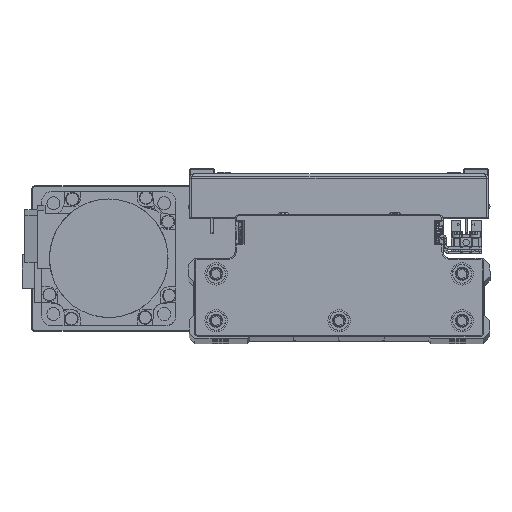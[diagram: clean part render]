
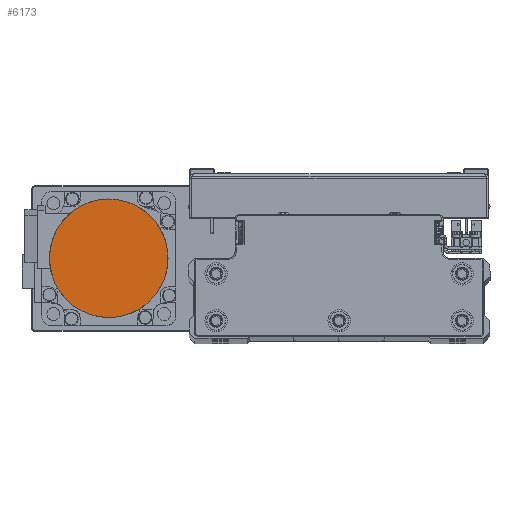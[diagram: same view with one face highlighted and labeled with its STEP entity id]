
A CAD part, top view. The second image highlights one B-rep face of the part: STEP entity #6173.
In plain terms, the highlighted planar face has unit normal (0, 0, 1) as drawn and (0, 0, -1) by its records, which use the part's own axes.
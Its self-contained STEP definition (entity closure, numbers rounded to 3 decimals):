
#1529 = CARTESIAN_POINT ( 'NONE',  ( -19.965, -17.512, -109.7 ) ) ;
#1752 = CARTESIAN_POINT ( 'NONE',  ( 11.744, -23.819, -109.7 ) ) ;
#2463 = CARTESIAN_POINT ( 'NONE',  ( 25.652, 6.871, -109.7 ) ) ;
#2694 = CARTESIAN_POINT ( 'NONE',  ( 1.734, 26.5, -109.7 ) ) ;
#2915 = CARTESIAN_POINT ( 'NONE',  ( -25.147, 8.539, -109.7 ) ) ;
#3501 = DIRECTION ( 'NONE',  ( 0., 0., 1. ) ) ;
#4945 = CARTESIAN_POINT ( 'NONE',  ( -23.819, -11.744, -109.7 ) ) ;
#5153 = CARTESIAN_POINT ( 'NONE',  ( 3.469, -26.329, -109.7 ) ) ;
#5371 = CARTESIAN_POINT ( 'NONE',  ( 26.329, -3.469, -109.7 ) ) ;
#5862 = CARTESIAN_POINT ( 'NONE',  ( 26.5, 0., -109.7 ) ) ;
#6089 = CARTESIAN_POINT ( 'NONE',  ( 8.539, 25.147, -109.7 ) ) ;
#6173 = ADVANCED_FACE ( 'NONE', ( #6894 ), #20733, .F. ) ;
#6318 = CARTESIAN_POINT ( 'NONE',  ( -21.07, 16.165, -109.7 ) ) ;
#6894 = FACE_OUTER_BOUND ( 'NONE', #11231, .T. ) ;
#7694 = VERTEX_POINT ( 'NONE', #24646 ) ;
#8340 = CARTESIAN_POINT ( 'NONE',  ( -26.329, -3.469, -109.7 ) ) ;
#8561 = CARTESIAN_POINT ( 'NONE',  ( -3.469, -26.329, -109.7 ) ) ;
#8779 = CARTESIAN_POINT ( 'NONE',  ( 23.819, -11.744, -109.7 ) ) ;
#9462 = ORIENTED_EDGE ( 'NONE', *, *, #10878, .F. ) ;
#9497 = CARTESIAN_POINT ( 'NONE',  ( 16.165, 21.07, -109.7 ) ) ;
#9730 = CARTESIAN_POINT ( 'NONE',  ( -16.165, 21.07, -109.7 ) ) ;
#10878 = EDGE_CURVE ( 'NONE', #27124, #7694, #43213, .T. ) ;
#11076 = EDGE_CURVE ( 'NONE', #7694, #27124, #34542, .T. ) ;
#11231 = EDGE_LOOP ( 'NONE', ( #9462, #34137 ) ) ;
#11969 = CARTESIAN_POINT ( 'NONE',  ( -11.744, -23.819, -109.7 ) ) ;
#12192 = CARTESIAN_POINT ( 'NONE',  ( 19.965, -17.512, -109.7 ) ) ;
#12914 = CARTESIAN_POINT ( 'NONE',  ( 21.07, 16.165, -109.7 ) ) ;
#13134 = CARTESIAN_POINT ( 'NONE',  ( -8.539, 25.147, -109.7 ) ) ;
#13360 = CARTESIAN_POINT ( 'NONE',  ( -26.5, 0., -109.7 ) ) ;
#15391 = CARTESIAN_POINT ( 'NONE',  ( -17.512, -19.965, -109.7 ) ) ;
#15604 = CARTESIAN_POINT ( 'NONE',  ( 13.28, -22.998, -109.7 ) ) ;
#16318 = CARTESIAN_POINT ( 'NONE',  ( 25.147, 8.539, -109.7 ) ) ;
#16542 = CARTESIAN_POINT ( 'NONE',  ( -1.734, 26.5, -109.7 ) ) ;
#16761 = CARTESIAN_POINT ( 'NONE',  ( -25.652, 6.871, -109.7 ) ) ;
#17345 = DIRECTION ( 'NONE',  ( 1., 0., 0. ) ) ;
#18777 = CARTESIAN_POINT ( 'NONE',  ( -22.998, -13.28, -109.7 ) ) ;
#18993 = CARTESIAN_POINT ( 'NONE',  ( 6.871, -25.652, -109.7 ) ) ;
#19204 = CARTESIAN_POINT ( 'NONE',  ( 26.5, -1.734, -109.7 ) ) ;
#19702 = CARTESIAN_POINT ( 'NONE',  ( 26.5, 1.734, -109.7 ) ) ;
#19926 = CARTESIAN_POINT ( 'NONE',  ( 6.871, 25.652, -109.7 ) ) ;
#20159 = CARTESIAN_POINT ( 'NONE',  ( -22.998, 13.28, -109.7 ) ) ;
#20733 = PLANE ( 'NONE',  #40032 ) ;
#20757 = CARTESIAN_POINT ( 'NONE',  ( 26.5, 0., -109.7 ) ) ;
#22179 = CARTESIAN_POINT ( 'NONE',  ( -25.652, -6.871, -109.7 ) ) ;
#22396 = CARTESIAN_POINT ( 'NONE',  ( -1.734, -26.5, -109.7 ) ) ;
#22614 = CARTESIAN_POINT ( 'NONE',  ( 25.147, -8.539, -109.7 ) ) ;
#23334 = CARTESIAN_POINT ( 'NONE',  ( 13.28, 22.998, -109.7 ) ) ;
#23564 = CARTESIAN_POINT ( 'NONE',  ( -17.512, 19.965, -109.7 ) ) ;
#24646 = CARTESIAN_POINT ( 'NONE',  ( -26.5, 0., -109.7 ) ) ;
#25591 = CARTESIAN_POINT ( 'NONE',  ( -26.5, 0., -109.7 ) ) ;
#25808 = CARTESIAN_POINT ( 'NONE',  ( -8.539, -25.147, -109.7 ) ) ;
#26018 = CARTESIAN_POINT ( 'NONE',  ( 21.07, -16.165, -109.7 ) ) ;
#26740 = CARTESIAN_POINT ( 'NONE',  ( 19.965, 17.512, -109.7 ) ) ;
#26964 = CARTESIAN_POINT ( 'NONE',  ( -11.744, 23.819, -109.7 ) ) ;
#27124 = VERTEX_POINT ( 'NONE', #20757 ) ;
#29202 = CARTESIAN_POINT ( 'NONE',  ( -16.165, -21.07, -109.7 ) ) ;
#29420 = CARTESIAN_POINT ( 'NONE',  ( 16.165, -21.07, -109.7 ) ) ;
#30137 = CARTESIAN_POINT ( 'NONE',  ( 23.819, 11.744, -109.7 ) ) ;
#30371 = CARTESIAN_POINT ( 'NONE',  ( -3.469, 26.329, -109.7 ) ) ;
#30597 = CARTESIAN_POINT ( 'NONE',  ( -26.329, 3.469, -109.7 ) ) ;
#32601 = CARTESIAN_POINT ( 'NONE',  ( -21.07, -16.165, -109.7 ) ) ;
#32821 = CARTESIAN_POINT ( 'NONE',  ( 8.539, -25.147, -109.7 ) ) ;
#33034 = CARTESIAN_POINT ( 'NONE',  ( 26.5, 0., -109.7 ) ) ;
#33535 = CARTESIAN_POINT ( 'NONE',  ( 26.329, 3.469, -109.7 ) ) ;
#33760 = CARTESIAN_POINT ( 'NONE',  ( 3.469, 26.329, -109.7 ) ) ;
#33985 = CARTESIAN_POINT ( 'NONE',  ( -23.819, 11.744, -109.7 ) ) ;
#34137 = ORIENTED_EDGE ( 'NONE', *, *, #11076, .F. ) ;
#34542 = B_SPLINE_CURVE_WITH_KNOTS ( 'NONE', 3,
 ( #25591, #39411, #8340, #22179, #36007, #4945, #18777, #32601, #1529, #15391, #29202, #43036, #11969, #25808, #39633, #8561, #22396, #36219, #5153, #18993, #32821, #1752, #15604, #29420, #43260, #12192, #26018, #39845, #8779, #22614, #36445, #5371, #19204, #33034 ),
 .UNSPECIFIED., .F., .F.,
 ( 4, 2, 2, 2, 2, 2, 2, 2, 2, 2, 2, 2, 2, 2, 2, 2, 4 ),
 ( 0., 0.063, 0.125, 0.188, 0.25, 0.312, 0.375, 0.437, 0.5, 0.562, 0.625, 0.687, 0.75, 0.813, 0.875, 0.938, 1. ),
 .UNSPECIFIED. ) ;
#34571 = CARTESIAN_POINT ( 'NONE',  ( 0., 0., -109.7 ) ) ;
#36007 = CARTESIAN_POINT ( 'NONE',  ( -25.147, -8.539, -109.7 ) ) ;
#36219 = CARTESIAN_POINT ( 'NONE',  ( 1.734, -26.5, -109.7 ) ) ;
#36445 = CARTESIAN_POINT ( 'NONE',  ( 25.652, -6.871, -109.7 ) ) ;
#37170 = CARTESIAN_POINT ( 'NONE',  ( 11.744, 23.819, -109.7 ) ) ;
#37399 = CARTESIAN_POINT ( 'NONE',  ( -19.965, 17.512, -109.7 ) ) ;
#39411 = CARTESIAN_POINT ( 'NONE',  ( -26.5, -1.734, -109.7 ) ) ;
#39633 = CARTESIAN_POINT ( 'NONE',  ( -6.871, -25.652, -109.7 ) ) ;
#39845 = CARTESIAN_POINT ( 'NONE',  ( 22.998, -13.28, -109.7 ) ) ;
#40032 = AXIS2_PLACEMENT_3D ( 'NONE', #34571, #3501, #17345 ) ;
#40562 = CARTESIAN_POINT ( 'NONE',  ( 17.512, 19.965, -109.7 ) ) ;
#40797 = CARTESIAN_POINT ( 'NONE',  ( -13.28, 22.998, -109.7 ) ) ;
#43036 = CARTESIAN_POINT ( 'NONE',  ( -13.28, -22.998, -109.7 ) ) ;
#43213 = B_SPLINE_CURVE_WITH_KNOTS ( 'NONE', 3,
 ( #5862, #19702, #33535, #2463, #16318, #30137, #43970, #12914, #26740, #40562, #9497, #23334, #37170, #6089, #19926, #33760, #2694, #16542, #30371, #44193, #13134, #26964, #40797, #9730, #23564, #37399, #6318, #20159, #33985, #2915, #16761, #30597, #44421, #13360 ),
 .UNSPECIFIED., .F., .F.,
 ( 4, 2, 2, 2, 2, 2, 2, 2, 2, 2, 2, 2, 2, 2, 2, 2, 4 ),
 ( 0., 0.062, 0.125, 0.187, 0.25, 0.312, 0.375, 0.437, 0.5, 0.562, 0.625, 0.687, 0.75, 0.813, 0.875, 0.938, 1. ),
 .UNSPECIFIED. ) ;
#43260 = CARTESIAN_POINT ( 'NONE',  ( 17.512, -19.965, -109.7 ) ) ;
#43970 = CARTESIAN_POINT ( 'NONE',  ( 22.998, 13.28, -109.7 ) ) ;
#44193 = CARTESIAN_POINT ( 'NONE',  ( -6.871, 25.652, -109.7 ) ) ;
#44421 = CARTESIAN_POINT ( 'NONE',  ( -26.5, 1.734, -109.7 ) ) ;
